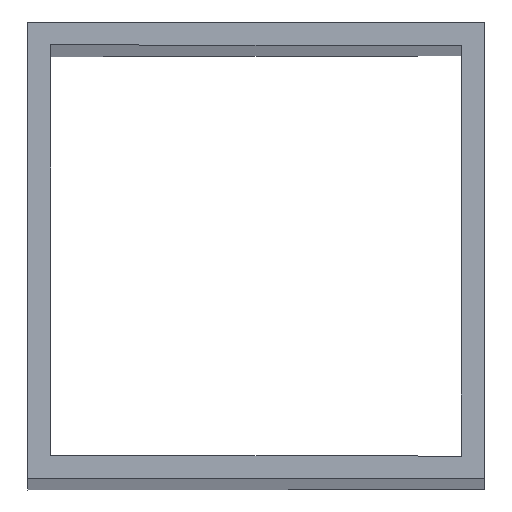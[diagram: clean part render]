
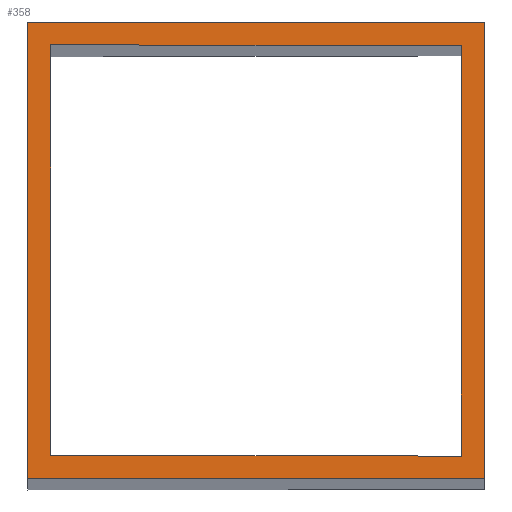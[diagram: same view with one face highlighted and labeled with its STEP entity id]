
A CAD part, top view. The second image highlights one B-rep face of the part: STEP entity #358.
In plain terms, the highlighted planar face has unit normal (0.707, 0, 0.707).
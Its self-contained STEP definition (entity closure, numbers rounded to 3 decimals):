
#32 = PLANE('',#33);
#33 = AXIS2_PLACEMENT_3D('',#34,#35,#36);
#34 = CARTESIAN_POINT('',(-40.,-40.,-40.));
#35 = DIRECTION('',(0.,1.,0.));
#36 = DIRECTION('',(1.,0.,0.));
#55 = VERTEX_POINT('',#56);
#56 = CARTESIAN_POINT('',(-40.,-40.,1153.138));
#70 = PLANE('',#71);
#71 = AXIS2_PLACEMENT_3D('',#72,#73,#74);
#72 = CARTESIAN_POINT('',(-40.,40.,-40.));
#73 = DIRECTION('',(1.,0.,-0.));
#74 = DIRECTION('',(0.,-1.,0.));
#82 = EDGE_CURVE('',#83,#55,#85,.T.);
#83 = VERTEX_POINT('',#84);
#84 = CARTESIAN_POINT('',(40.,-40.,1073.138));
#85 = SURFACE_CURVE('',#86,(#90,#96),.PCURVE_S1.);
#86 = LINE('',#87,#88);
#87 = CARTESIAN_POINT('',(556.569,-40.,556.569));
#88 = VECTOR('',#89,1.);
#89 = DIRECTION('',(-0.707,0.,0.707));
#90 = PCURVE('',#32,#91);
#91 = DEFINITIONAL_REPRESENTATION('',(#92),#95);
#92 = B_SPLINE_CURVE_WITH_KNOTS('',1,(#93,#94),.UNSPECIFIED.,.F.,.F.,(2,
    2),(730.539,843.676),.PIECEWISE_BEZIER_KNOTS.);
#93 = CARTESIAN_POINT('',(80.,-1113.138));
#94 = CARTESIAN_POINT('',(0.,-1193.138));
#95 = ( GEOMETRIC_REPRESENTATION_CONTEXT(2) 
PARAMETRIC_REPRESENTATION_CONTEXT() REPRESENTATION_CONTEXT('2D SPACE',''
  ) );
#96 = PCURVE('',#97,#102);
#97 = PLANE('',#98);
#98 = AXIS2_PLACEMENT_3D('',#99,#100,#101);
#99 = CARTESIAN_POINT('',(556.569,-0.,556.569));
#100 = DIRECTION('',(-0.707,0.,-0.707));
#101 = DIRECTION('',(-0.707,0.,0.707));
#102 = DEFINITIONAL_REPRESENTATION('',(#103),#106);
#103 = B_SPLINE_CURVE_WITH_KNOTS('',1,(#104,#105),.UNSPECIFIED.,.F.,.F.,
  (2,2),(730.539,843.676),.PIECEWISE_BEZIER_KNOTS.);
#104 = CARTESIAN_POINT('',(730.539,-40.));
#105 = CARTESIAN_POINT('',(843.676,-40.));
#106 = ( GEOMETRIC_REPRESENTATION_CONTEXT(2) 
PARAMETRIC_REPRESENTATION_CONTEXT() REPRESENTATION_CONTEXT('2D SPACE',''
  ) );
#122 = PLANE('',#123);
#123 = AXIS2_PLACEMENT_3D('',#124,#125,#126);
#124 = CARTESIAN_POINT('',(40.,-40.,-40.));
#125 = DIRECTION('',(-1.,0.,0.));
#126 = DIRECTION('',(0.,1.,0.));
#154 = PLANE('',#155);
#155 = AXIS2_PLACEMENT_3D('',#156,#157,#158);
#156 = CARTESIAN_POINT('',(40.,40.,-40.));
#157 = DIRECTION('',(0.,-1.,0.));
#158 = DIRECTION('',(-1.,0.,0.));
#225 = PLANE('',#226);
#226 = AXIS2_PLACEMENT_3D('',#227,#228,#229);
#227 = CARTESIAN_POINT('',(-36.,-36.,-40.));
#228 = DIRECTION('',(0.,1.,0.));
#229 = DIRECTION('',(1.,0.,0.));
#251 = PLANE('',#252);
#252 = AXIS2_PLACEMENT_3D('',#253,#254,#255);
#253 = CARTESIAN_POINT('',(-36.,36.,-40.));
#254 = DIRECTION('',(1.,0.,-0.));
#255 = DIRECTION('',(0.,-1.,0.));
#277 = PLANE('',#278);
#278 = AXIS2_PLACEMENT_3D('',#279,#280,#281);
#279 = CARTESIAN_POINT('',(36.,36.,-40.));
#280 = DIRECTION('',(0.,-1.,0.));
#281 = DIRECTION('',(-1.,0.,0.));
#301 = PLANE('',#302);
#302 = AXIS2_PLACEMENT_3D('',#303,#304,#305);
#303 = CARTESIAN_POINT('',(36.,-36.,-40.));
#304 = DIRECTION('',(-1.,0.,0.));
#305 = DIRECTION('',(0.,1.,0.));
#317 = EDGE_CURVE('',#318,#83,#320,.T.);
#318 = VERTEX_POINT('',#319);
#319 = CARTESIAN_POINT('',(40.,40.,1073.138));
#320 = SURFACE_CURVE('',#321,(#325,#331),.PCURVE_S1.);
#321 = LINE('',#322,#323);
#322 = CARTESIAN_POINT('',(40.,-20.,1073.138));
#323 = VECTOR('',#324,1.);
#324 = DIRECTION('',(-0.,-1.,0.));
#325 = PCURVE('',#122,#326);
#326 = DEFINITIONAL_REPRESENTATION('',(#327),#330);
#327 = B_SPLINE_CURVE_WITH_KNOTS('',1,(#328,#329),.UNSPECIFIED.,.F.,.F.,
  (2,2),(-60.,20.),.PIECEWISE_BEZIER_KNOTS.);
#328 = CARTESIAN_POINT('',(80.,-1113.138));
#329 = CARTESIAN_POINT('',(0.,-1113.138));
#330 = ( GEOMETRIC_REPRESENTATION_CONTEXT(2) 
PARAMETRIC_REPRESENTATION_CONTEXT() REPRESENTATION_CONTEXT('2D SPACE',''
  ) );
#331 = PCURVE('',#97,#332);
#332 = DEFINITIONAL_REPRESENTATION('',(#333),#336);
#333 = B_SPLINE_CURVE_WITH_KNOTS('',1,(#334,#335),.UNSPECIFIED.,.F.,.F.,
  (2,2),(-60.,20.),.PIECEWISE_BEZIER_KNOTS.);
#334 = CARTESIAN_POINT('',(730.539,40.));
#335 = CARTESIAN_POINT('',(730.539,-40.));
#336 = ( GEOMETRIC_REPRESENTATION_CONTEXT(2) 
PARAMETRIC_REPRESENTATION_CONTEXT() REPRESENTATION_CONTEXT('2D SPACE',''
  ) );
#358 = ADVANCED_FACE('',(#359,#405),#97,.F.);
#359 = FACE_BOUND('',#360,.F.);
#360 = EDGE_LOOP('',(#361,#384,#403,#404));
#361 = ORIENTED_EDGE('',*,*,#362,.F.);
#362 = EDGE_CURVE('',#363,#55,#365,.T.);
#363 = VERTEX_POINT('',#364);
#364 = CARTESIAN_POINT('',(-40.,40.,1153.138));
#365 = SURFACE_CURVE('',#366,(#370,#377),.PCURVE_S1.);
#366 = LINE('',#367,#368);
#367 = CARTESIAN_POINT('',(-40.,40.,1153.138));
#368 = VECTOR('',#369,1.);
#369 = DIRECTION('',(0.,-1.,0.));
#370 = PCURVE('',#97,#371);
#371 = DEFINITIONAL_REPRESENTATION('',(#372),#376);
#372 = LINE('',#373,#374);
#373 = CARTESIAN_POINT('',(843.676,40.));
#374 = VECTOR('',#375,1.);
#375 = DIRECTION('',(0.,-1.));
#376 = ( GEOMETRIC_REPRESENTATION_CONTEXT(2) 
PARAMETRIC_REPRESENTATION_CONTEXT() REPRESENTATION_CONTEXT('2D SPACE',''
  ) );
#377 = PCURVE('',#70,#378);
#378 = DEFINITIONAL_REPRESENTATION('',(#379),#383);
#379 = LINE('',#380,#381);
#380 = CARTESIAN_POINT('',(0.,-1193.138));
#381 = VECTOR('',#382,1.);
#382 = DIRECTION('',(1.,0.));
#383 = ( GEOMETRIC_REPRESENTATION_CONTEXT(2) 
PARAMETRIC_REPRESENTATION_CONTEXT() REPRESENTATION_CONTEXT('2D SPACE',''
  ) );
#384 = ORIENTED_EDGE('',*,*,#385,.T.);
#385 = EDGE_CURVE('',#363,#318,#386,.T.);
#386 = SURFACE_CURVE('',#387,(#391,#397),.PCURVE_S1.);
#387 = LINE('',#388,#389);
#388 = CARTESIAN_POINT('',(576.569,40.,536.569));
#389 = VECTOR('',#390,1.);
#390 = DIRECTION('',(0.707,0.,-0.707));
#391 = PCURVE('',#97,#392);
#392 = DEFINITIONAL_REPRESENTATION('',(#393),#396);
#393 = B_SPLINE_CURVE_WITH_KNOTS('',1,(#394,#395),.UNSPECIFIED.,.F.,.F.,
  (2,2),(-871.961,-758.823),.PIECEWISE_BEZIER_KNOTS.);
#394 = CARTESIAN_POINT('',(843.676,40.));
#395 = CARTESIAN_POINT('',(730.539,40.));
#396 = ( GEOMETRIC_REPRESENTATION_CONTEXT(2) 
PARAMETRIC_REPRESENTATION_CONTEXT() REPRESENTATION_CONTEXT('2D SPACE',''
  ) );
#397 = PCURVE('',#154,#398);
#398 = DEFINITIONAL_REPRESENTATION('',(#399),#402);
#399 = B_SPLINE_CURVE_WITH_KNOTS('',1,(#400,#401),.UNSPECIFIED.,.F.,.F.,
  (2,2),(-871.961,-758.823),.PIECEWISE_BEZIER_KNOTS.);
#400 = CARTESIAN_POINT('',(80.,-1193.138));
#401 = CARTESIAN_POINT('',(0.,-1113.138));
#402 = ( GEOMETRIC_REPRESENTATION_CONTEXT(2) 
PARAMETRIC_REPRESENTATION_CONTEXT() REPRESENTATION_CONTEXT('2D SPACE',''
  ) );
#403 = ORIENTED_EDGE('',*,*,#317,.T.);
#404 = ORIENTED_EDGE('',*,*,#82,.T.);
#405 = FACE_BOUND('',#406,.F.);
#406 = EDGE_LOOP('',(#407,#430,#451,#472));
#407 = ORIENTED_EDGE('',*,*,#408,.F.);
#408 = EDGE_CURVE('',#409,#411,#413,.T.);
#409 = VERTEX_POINT('',#410);
#410 = CARTESIAN_POINT('',(36.,-36.,1077.138));
#411 = VERTEX_POINT('',#412);
#412 = CARTESIAN_POINT('',(-36.,-36.,1149.138));
#413 = SURFACE_CURVE('',#414,(#418,#424),.PCURVE_S1.);
#414 = LINE('',#415,#416);
#415 = CARTESIAN_POINT('',(557.569,-36.,555.569));
#416 = VECTOR('',#417,1.);
#417 = DIRECTION('',(-0.707,0.,0.707));
#418 = PCURVE('',#97,#419);
#419 = DEFINITIONAL_REPRESENTATION('',(#420),#423);
#420 = B_SPLINE_CURVE_WITH_KNOTS('',1,(#421,#422),.UNSPECIFIED.,.F.,.F.,
  (2,2),(737.61,839.434),.PIECEWISE_BEZIER_KNOTS.);
#421 = CARTESIAN_POINT('',(736.196,-36.));
#422 = CARTESIAN_POINT('',(838.019,-36.));
#423 = ( GEOMETRIC_REPRESENTATION_CONTEXT(2) 
PARAMETRIC_REPRESENTATION_CONTEXT() REPRESENTATION_CONTEXT('2D SPACE',''
  ) );
#424 = PCURVE('',#225,#425);
#425 = DEFINITIONAL_REPRESENTATION('',(#426),#429);
#426 = B_SPLINE_CURVE_WITH_KNOTS('',1,(#427,#428),.UNSPECIFIED.,.F.,.F.,
  (2,2),(737.61,839.434),.PIECEWISE_BEZIER_KNOTS.);
#427 = CARTESIAN_POINT('',(72.,-1117.138));
#428 = CARTESIAN_POINT('',(0.,-1189.138));
#429 = ( GEOMETRIC_REPRESENTATION_CONTEXT(2) 
PARAMETRIC_REPRESENTATION_CONTEXT() REPRESENTATION_CONTEXT('2D SPACE',''
  ) );
#430 = ORIENTED_EDGE('',*,*,#431,.F.);
#431 = EDGE_CURVE('',#432,#409,#434,.T.);
#432 = VERTEX_POINT('',#433);
#433 = CARTESIAN_POINT('',(36.,36.,1077.138));
#434 = SURFACE_CURVE('',#435,(#439,#445),.PCURVE_S1.);
#435 = LINE('',#436,#437);
#436 = CARTESIAN_POINT('',(36.,-18.,1077.138));
#437 = VECTOR('',#438,1.);
#438 = DIRECTION('',(-0.,-1.,0.));
#439 = PCURVE('',#97,#440);
#440 = DEFINITIONAL_REPRESENTATION('',(#441),#444);
#441 = B_SPLINE_CURVE_WITH_KNOTS('',1,(#442,#443),.UNSPECIFIED.,.F.,.F.,
  (2,2),(-54.,18.),.PIECEWISE_BEZIER_KNOTS.);
#442 = CARTESIAN_POINT('',(736.196,36.));
#443 = CARTESIAN_POINT('',(736.196,-36.));
#444 = ( GEOMETRIC_REPRESENTATION_CONTEXT(2) 
PARAMETRIC_REPRESENTATION_CONTEXT() REPRESENTATION_CONTEXT('2D SPACE',''
  ) );
#445 = PCURVE('',#301,#446);
#446 = DEFINITIONAL_REPRESENTATION('',(#447),#450);
#447 = B_SPLINE_CURVE_WITH_KNOTS('',1,(#448,#449),.UNSPECIFIED.,.F.,.F.,
  (2,2),(-54.,18.),.PIECEWISE_BEZIER_KNOTS.);
#448 = CARTESIAN_POINT('',(72.,-1117.138));
#449 = CARTESIAN_POINT('',(0.,-1117.138));
#450 = ( GEOMETRIC_REPRESENTATION_CONTEXT(2) 
PARAMETRIC_REPRESENTATION_CONTEXT() REPRESENTATION_CONTEXT('2D SPACE',''
  ) );
#451 = ORIENTED_EDGE('',*,*,#452,.F.);
#452 = EDGE_CURVE('',#453,#432,#455,.T.);
#453 = VERTEX_POINT('',#454);
#454 = CARTESIAN_POINT('',(-36.,36.,1149.138));
#455 = SURFACE_CURVE('',#456,(#460,#466),.PCURVE_S1.);
#456 = LINE('',#457,#458);
#457 = CARTESIAN_POINT('',(575.569,36.,537.569));
#458 = VECTOR('',#459,1.);
#459 = DIRECTION('',(0.707,0.,-0.707));
#460 = PCURVE('',#97,#461);
#461 = DEFINITIONAL_REPRESENTATION('',(#462),#465);
#462 = B_SPLINE_CURVE_WITH_KNOTS('',1,(#463,#464),.UNSPECIFIED.,.F.,.F.,
  (2,2),(-864.889,-763.066),.PIECEWISE_BEZIER_KNOTS.);
#463 = CARTESIAN_POINT('',(838.019,36.));
#464 = CARTESIAN_POINT('',(736.196,36.));
#465 = ( GEOMETRIC_REPRESENTATION_CONTEXT(2) 
PARAMETRIC_REPRESENTATION_CONTEXT() REPRESENTATION_CONTEXT('2D SPACE',''
  ) );
#466 = PCURVE('',#277,#467);
#467 = DEFINITIONAL_REPRESENTATION('',(#468),#471);
#468 = B_SPLINE_CURVE_WITH_KNOTS('',1,(#469,#470),.UNSPECIFIED.,.F.,.F.,
  (2,2),(-864.889,-763.066),.PIECEWISE_BEZIER_KNOTS.);
#469 = CARTESIAN_POINT('',(72.,-1189.138));
#470 = CARTESIAN_POINT('',(0.,-1117.138));
#471 = ( GEOMETRIC_REPRESENTATION_CONTEXT(2) 
PARAMETRIC_REPRESENTATION_CONTEXT() REPRESENTATION_CONTEXT('2D SPACE',''
  ) );
#472 = ORIENTED_EDGE('',*,*,#473,.F.);
#473 = EDGE_CURVE('',#411,#453,#474,.T.);
#474 = SURFACE_CURVE('',#475,(#479,#485),.PCURVE_S1.);
#475 = LINE('',#476,#477);
#476 = CARTESIAN_POINT('',(-36.,18.,1149.138));
#477 = VECTOR('',#478,1.);
#478 = DIRECTION('',(0.,1.,0.));
#479 = PCURVE('',#97,#480);
#480 = DEFINITIONAL_REPRESENTATION('',(#481),#484);
#481 = B_SPLINE_CURVE_WITH_KNOTS('',1,(#482,#483),.UNSPECIFIED.,.F.,.F.,
  (2,2),(-54.,18.),.PIECEWISE_BEZIER_KNOTS.);
#482 = CARTESIAN_POINT('',(838.019,-36.));
#483 = CARTESIAN_POINT('',(838.019,36.));
#484 = ( GEOMETRIC_REPRESENTATION_CONTEXT(2) 
PARAMETRIC_REPRESENTATION_CONTEXT() REPRESENTATION_CONTEXT('2D SPACE',''
  ) );
#485 = PCURVE('',#251,#486);
#486 = DEFINITIONAL_REPRESENTATION('',(#487),#490);
#487 = B_SPLINE_CURVE_WITH_KNOTS('',1,(#488,#489),.UNSPECIFIED.,.F.,.F.,
  (2,2),(-54.,18.),.PIECEWISE_BEZIER_KNOTS.);
#488 = CARTESIAN_POINT('',(72.,-1189.138));
#489 = CARTESIAN_POINT('',(0.,-1189.138));
#490 = ( GEOMETRIC_REPRESENTATION_CONTEXT(2) 
PARAMETRIC_REPRESENTATION_CONTEXT() REPRESENTATION_CONTEXT('2D SPACE',''
  ) );
